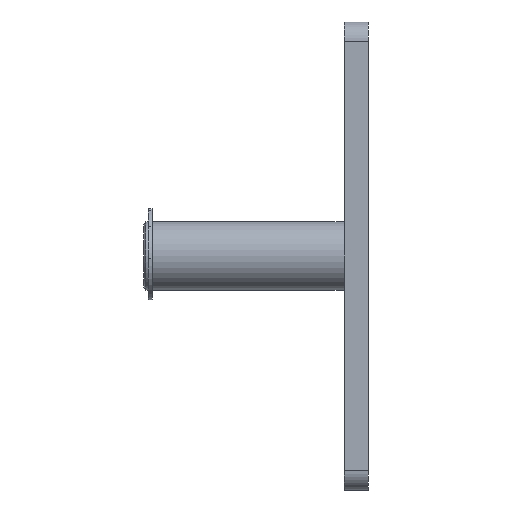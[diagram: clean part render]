
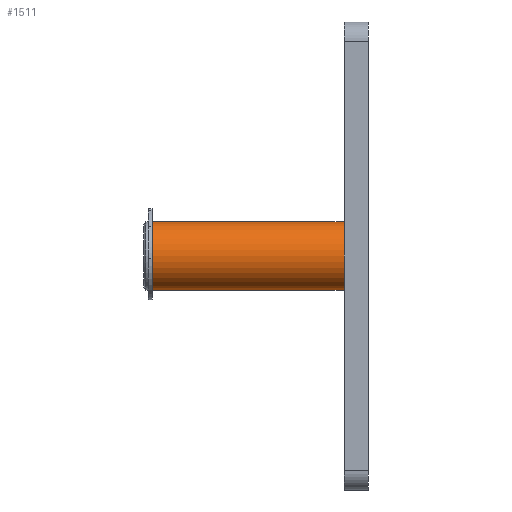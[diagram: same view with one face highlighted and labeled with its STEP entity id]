
A CAD part, left-side view. The second image highlights one B-rep face of the part: STEP entity #1511.
In plain terms, the highlighted cylindrical face has radius 11.1 mm (diameter 22.2 mm), a partial arc.
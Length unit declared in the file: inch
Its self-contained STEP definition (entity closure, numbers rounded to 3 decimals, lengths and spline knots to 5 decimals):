
#44 = AXIS2_PLACEMENT_3D ( 'NONE', #348, #1364, #1520 ) ;
#61 = LINE ( 'NONE', #2061, #956 ) ;
#117 = AXIS2_PLACEMENT_3D ( 'NONE', #2138, #965, #1114 ) ;
#183 = DIRECTION ( 'NONE',  ( 0., 1., 0. ) ) ;
#195 = CARTESIAN_POINT ( 'NONE',  ( 0., -1.155, 0. ) ) ;
#216 = ORIENTED_EDGE ( 'NONE', *, *, #1864, .T. ) ;
#267 = EDGE_LOOP ( 'NONE', ( #819, #216, #1029, #300 ) ) ;
#300 = ORIENTED_EDGE ( 'NONE', *, *, #1328, .F. ) ;
#348 = CARTESIAN_POINT ( 'NONE',  ( 0., 3.63998, 0. ) ) ;
#402 = DIRECTION ( 'NONE',  ( 0., 1., 0. ) ) ;
#447 = CARTESIAN_POINT ( 'NONE',  ( 0., 1.306, -0.437 ) ) ;
#481 = CARTESIAN_POINT ( 'NONE',  ( 0., 3.63998, 0.437 ) ) ;
#531 = CIRCLE ( 'NONE', #117, 0.437 ) ;
#684 = DIRECTION ( 'NONE',  ( 0., 0., 1. ) ) ;
#694 = FACE_OUTER_BOUND ( 'NONE', #267, .T. ) ;
#750 = EDGE_CURVE ( 'NONE', #1710, #1435, #1992, .T. ) ;
#819 = ORIENTED_EDGE ( 'NONE', *, *, #1095, .F. ) ;
#858 = CARTESIAN_POINT ( 'NONE',  ( 0., 1.306, 0.437 ) ) ;
#949 = VERTEX_POINT ( 'NONE', #447 ) ;
#956 = VECTOR ( 'NONE', #402, 39.37008 ) ;
#965 = DIRECTION ( 'NONE',  ( 0., 1., 0. ) ) ;
#986 = VECTOR ( 'NONE', #1807, 39.37008 ) ;
#1029 = ORIENTED_EDGE ( 'NONE', *, *, #750, .T. ) ;
#1095 = EDGE_CURVE ( 'NONE', #1401, #949, #61, .T. ) ;
#1114 = DIRECTION ( 'NONE',  ( 0., 0., 1. ) ) ;
#1179 = CYLINDRICAL_SURFACE ( 'NONE', #44, 0.437 ) ;
#1328 = EDGE_CURVE ( 'NONE', #949, #1435, #531, .T. ) ;
#1364 = DIRECTION ( 'NONE',  ( 0., 1., 0. ) ) ;
#1401 = VERTEX_POINT ( 'NONE', #1609 ) ;
#1413 = AXIS2_PLACEMENT_3D ( 'NONE', #195, #183, #684 ) ;
#1435 = VERTEX_POINT ( 'NONE', #858 ) ;
#1483 = CIRCLE ( 'NONE', #1413, 0.437 ) ;
#1511 = ADVANCED_FACE ( 'NONE', ( #694 ), #1179, .T. ) ;
#1520 = DIRECTION ( 'NONE',  ( 0., 0., 1. ) ) ;
#1609 = CARTESIAN_POINT ( 'NONE',  ( 0., -1.155, -0.437 ) ) ;
#1616 = CARTESIAN_POINT ( 'NONE',  ( 0., -1.155, 0.437 ) ) ;
#1710 = VERTEX_POINT ( 'NONE', #1616 ) ;
#1807 = DIRECTION ( 'NONE',  ( 0., 1., 0. ) ) ;
#1864 = EDGE_CURVE ( 'NONE', #1401, #1710, #1483, .T. ) ;
#1992 = LINE ( 'NONE', #481, #986 ) ;
#2061 = CARTESIAN_POINT ( 'NONE',  ( 0., 3.63998, -0.437 ) ) ;
#2138 = CARTESIAN_POINT ( 'NONE',  ( 0., 1.306, 0. ) ) ;
